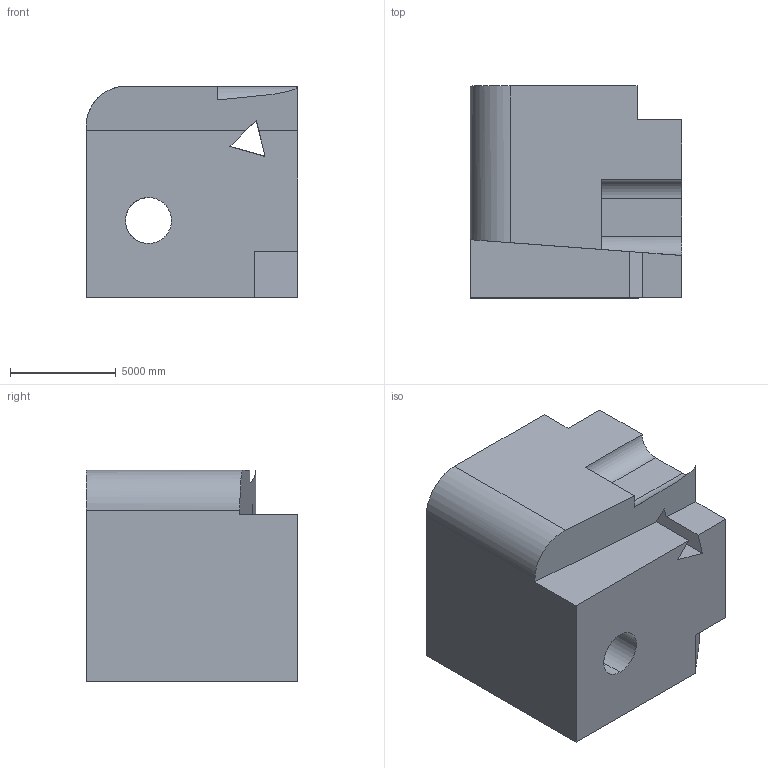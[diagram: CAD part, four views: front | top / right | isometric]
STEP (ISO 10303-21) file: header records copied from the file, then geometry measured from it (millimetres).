
FILE_DESCRIPTION (( 'STEP AP203' ), '1' );
FILE_NAME ('883.STEP', '2022-08-05T16:12:45', ( 'user' ), ( '' ), 'SwSTEP 2.0', 'SolidWorks 2021', '' );
FILE_SCHEMA (( 'CONFIG_CONTROL_DESIGN' ));
Length unit declared in the file: centimetre
Products named in the file (1): 883
Bounding box: 10000 x 10000 x 10000 mm (x, y, z)
Volume: 817895386374.2 mm3; surface area: 722335568.6 mm2
Topology: 1 solids, 1 shells, 32 faces, 102 edges, 68 vertices
Faces by surface type: plane 25, cylinder 7
Entity records: 1210 total; most frequent: CARTESIAN_POINT 221, ORIENTED_EDGE 204, DIRECTION 177, EDGE_CURVE 102, VECTOR 81, LINE 81, VERTEX_POINT 68, AXIS2_PLACEMENT_3D 48
